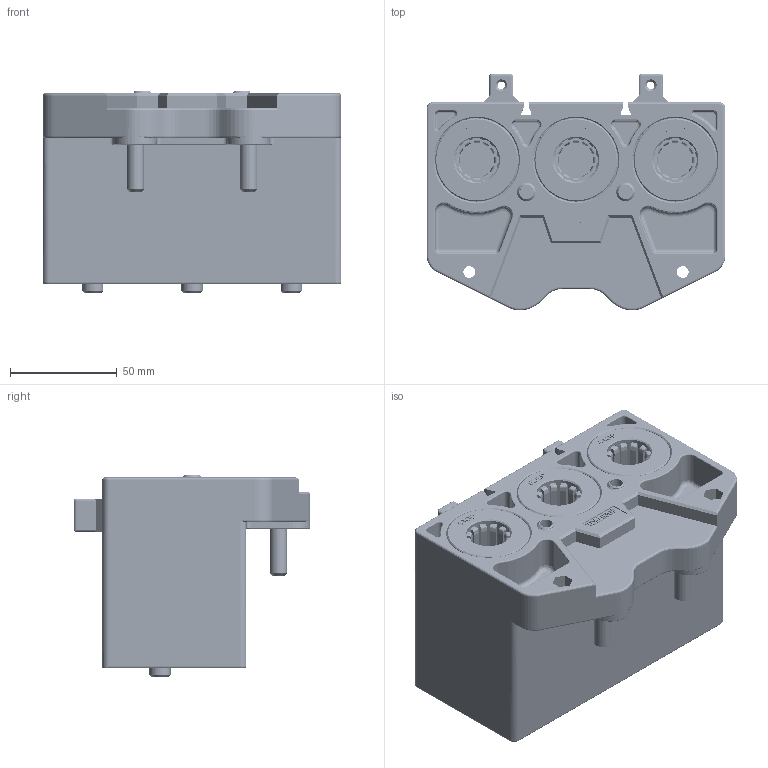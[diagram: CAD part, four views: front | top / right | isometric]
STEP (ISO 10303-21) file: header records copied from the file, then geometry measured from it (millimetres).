
FILE_DESCRIPTION(/* description */ (''),/* implementation_level */ '2;1');
FILE_NAME(/* name */ 'TDM 63GP F3_3D DATA.stp',/* time_stamp */ '2018-04-26T13:10:13+09:00',/* author */ (''),/* organization */ (''),/* preprocessor_version */ 'ST-DEVELOPER v15',/* originating_system */ 'SIEMENS PLM Software NX 9.0',/* authorisation */ '');
FILE_SCHEMA (('AP203_CONFIGURATION_CONTROLLED_3D_DESIGN_OF_MECHANICAL_PARTS_AND_ASSEMBLIES_MIM_LF { 1 0 10303 403 2 1 2}'));
Products named in the file (10): CONNECTED_SPRING_63GP_R00; GP3-MO-9002_R01; PC-STUD BOLT M10xL47_R00; GC4-PR-9001_R00; GP3-PG-9001_R00; PC-SNAP RING C(25)_R00; GP3-MO-9001_R03; GP3-AS-9001_R00; GP3-CP-9002_R00
Assembly tree (25 placements, depth 4):
  GP3-CP-9002_R00
    GP3-CP-9002_R00
      GP3-AS-9001_R00  x3
        GP3-PG-9001_R00
        GC4-PR-9001_R00
        PC-STUD BOLT M10xL47_R00
        GP3-MO-9002_R01
        CONNECTED_SPRING_63GP_R00
      GP3-MO-9001_R03
      PC-SNAP RING C(25)_R00  x3
Bounding box: 140 x 111 x 94.8 mm (x, y, z)
Volume: 546615 mm3; surface area: 191471 mm2
Topology: 57 solids, 63 shells, 5148 faces, 15992 edges, 14873 vertices
Faces by surface type: torus 2760, cylinder 1081, plane 890, bspline 262, extrusion 79, cone 52, sphere 24
Full cylindrical faces by diameter (mm): 3.5 x2, 5.5 x2, 6 x2, 7.8 x2, 8 x4, 8.5 x3, 10 x3, 20.8 x3, 21.8 x3, 24.3 x3, 25.3 x6, 25.4 x3, 39 x3, 39.5 x3
Entity records: 90835 total; most frequent: CARTESIAN_POINT 51166, DIRECTION 7782, ORIENTED_EDGE 5734, B_SPLINE_CURVE_WITH_KNOTS 3238, EDGE_CURVE 2869, AXIS2_PLACEMENT_3D 2796, VECTOR 2190, LINE 2145
